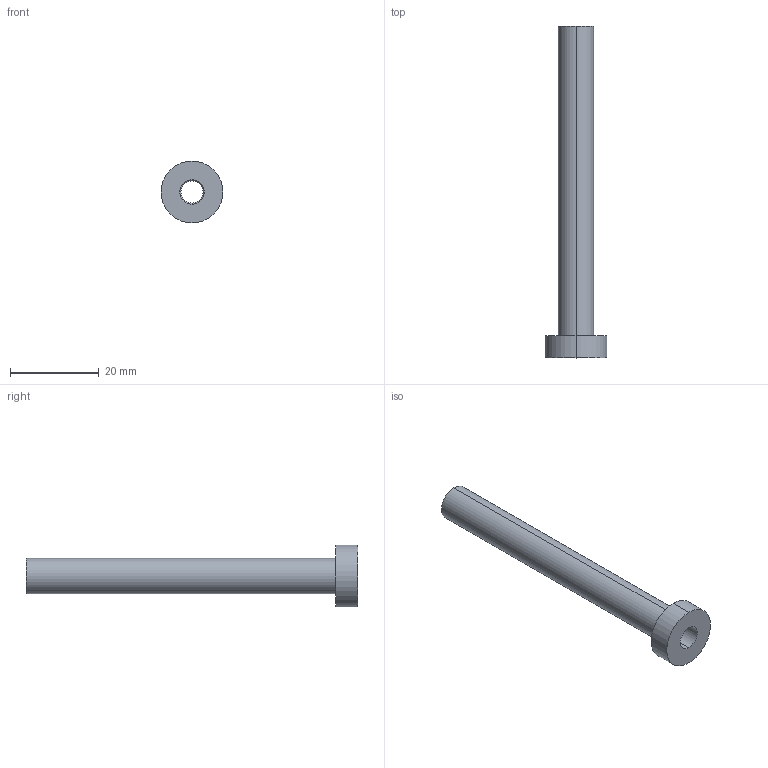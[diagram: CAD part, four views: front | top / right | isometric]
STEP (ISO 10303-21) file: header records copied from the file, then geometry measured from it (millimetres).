
FILE_DESCRIPTION (( 'STEP AP214' ), '1' );
FILE_NAME ('ET-ETN-5x75.STEP', '2019-12-16T16:56:19', ( 'August' ), ( '' ), 'SwSTEP 2.0', 'SolidWorks 2018', '' );
FILE_SCHEMA (( 'AUTOMOTIVE_DESIGN' ));
Length unit declared in the file: millimetre
Products named in the file (1): ET-ETN-5x75
Bounding box: 14 x 75 x 14 mm (x, y, z)
Volume: 2692.5 mm3; surface area: 3470.4 mm2
Topology: 1 solids, 1 shells, 13 faces, 26 edges, 16 vertices
Faces by surface type: cylinder 8, plane 3, cone 2
Entity records: 382 total; most frequent: DIRECTION 70, CARTESIAN_POINT 56, ORIENTED_EDGE 52, AXIS2_PLACEMENT_3D 30, EDGE_CURVE 26, CIRCLE 16, VERTEX_POINT 16, EDGE_LOOP 16
